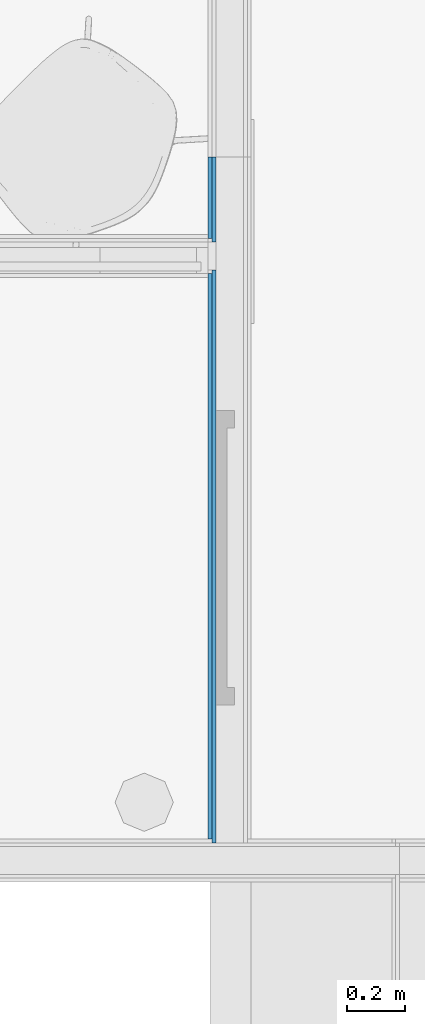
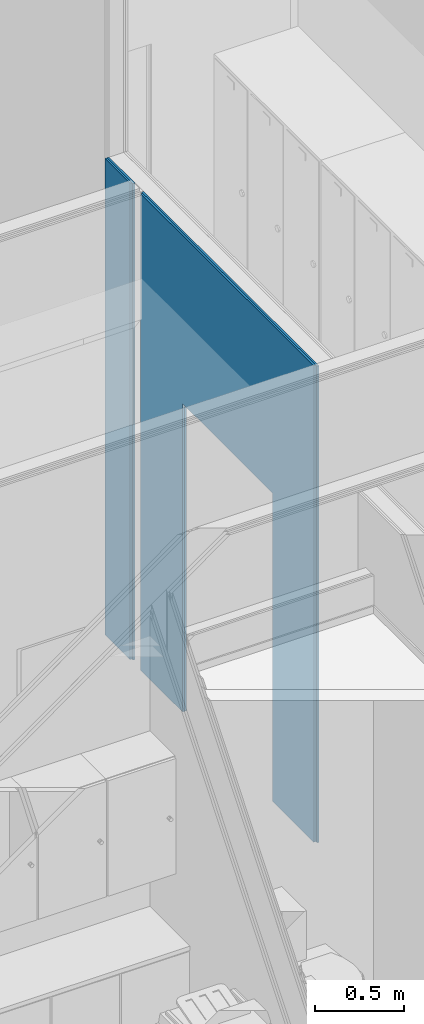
# One storey, part 85 of 153: 2 building element parts, 1 opening, 1 element without a shape of its own.
"""IFC2X3 building model written with IfcOpenShell, lengths in millimetres."""

import ifcopenshell
import ifcopenshell.guid

model = None  # the IFC model being written
_history = None  # IfcOwnerHistory: only IFC2X3 demands one
_inside = {}  # id of a spatial element -> (the spatial element, [elements in it])
_under = {}  # id of a project, library or spatial element -> (it, [spatial elements below it])
_declared = {}  # id of a project -> (the project, [libraries it declares])
_typed = {}  # id of a type object -> (the type object, [elements of that type])
_made_of = {}  # id of a material, layer set ... -> (it, [elements and type objects made of it])


def new_model(schema):
    """Start an empty IFC model of exactly this schema.

    Asked for "IFC4X3", IfcOpenShell would pick the latest addendum, in which some entities
    have other attributes; the version numbers below select the first issue.
    IFC2X3 requires an IfcOwnerHistory on every rooted entity: one is made here for all.
    """
    global model, _history
    if schema == "IFC4X3":
        model = ifcopenshell.file(schema_version=(4, 3, 0, 0))
    else:
        model = ifcopenshell.file(schema=schema)
    _inside.clear()
    _under.clear()
    _declared.clear()
    _typed.clear()
    _made_of.clear()
    _history = None
    if model.schema == "IFC2X3":
        org = make("IfcOrganization", Name="unknown")
        user = make(
            "IfcPersonAndOrganization",
            ThePerson=make("IfcPerson", FamilyName="unknown"),
            TheOrganization=org,
        )
        app = make(
            "IfcApplication",
            ApplicationDeveloper=org,
            Version="unknown",
            ApplicationFullName="unknown",
            ApplicationIdentifier="unknown",
        )
        _history = make(
            "IfcOwnerHistory",
            OwningUser=user,
            OwningApplication=app,
            ChangeAction="ADDED",
            CreationDate=0,
        )
    return model


def make(cls, **values):
    """One entity of the class cls with the attributes given. An attribute that is None is left unset."""
    return model.create_entity(
        cls, **{name: value for name, value in values.items() if value is not None}
    )


def entity(cls, *values):
    """Any entity or typed value of the class cls, its attributes in the order of the schema. None: left unset."""
    e = model.create_entity(cls)
    for i, value in enumerate(values):
        if value is not None:
            e[i] = value
    return e


def rooted(cls, **values):
    """An entity with a GlobalId (a new one), such as an element, a storey or a relation."""
    return make(cls, GlobalId=ifcopenshell.guid.new(), OwnerHistory=_history, **values)


def si_unit(unit_type, name, prefix=None):
    """IfcSIUnit, for example si_unit("LENGTHUNIT", "METRE", prefix="MILLI")."""
    return make("IfcSIUnit", UnitType=unit_type, Prefix=prefix, Name=name)


def converted_unit(unit_type, name, factor, base, dimensions=None, offset=None):
    """IfcConversionBasedUnit, such as the inch: factor (a typed value) times the base unit."""
    return make(
        "IfcConversionBasedUnit"
        if offset is None
        else "IfcConversionBasedUnitWithOffset",
        ConversionOffset=offset,
        Dimensions=None
        if dimensions is None
        else entity("IfcDimensionalExponents", *dimensions),
        UnitType=unit_type,
        Name=name,
        ConversionFactor=make(
            "IfcMeasureWithUnit", ValueComponent=factor, UnitComponent=base
        ),
    )


def derived_unit(unit_type, elements):
    """IfcDerivedUnit: a product of units, each with its exponent."""
    return make(
        "IfcDerivedUnit",
        Elements=[
            make("IfcDerivedUnitElement", Unit=unit, Exponent=power)
            for unit, power in elements
        ],
        UnitType=unit_type,
    )


def money_unit(currency):
    """IfcMonetaryUnit."""
    return make("IfcMonetaryUnit", Currency=currency)


def assignment(units):
    """IfcUnitAssignment: the units of a project."""
    return None if units is None else make("IfcUnitAssignment", Units=units)


def point(xyz):
    """IfcCartesianPoint."""
    return None if xyz is None else make("IfcCartesianPoint", Coordinates=xyz)


def direction(xyz):
    """IfcDirection."""
    return None if xyz is None else make("IfcDirection", DirectionRatios=xyz)


def frame(location, z_axis=None, x_axis=None):
    """IfcAxis2Placement3D, a coordinate frame: its origin and axes. An axis left out is left unset."""
    return make(
        "IfcAxis2Placement3D",
        Location=point(location),
        Axis=direction(z_axis),
        RefDirection=direction(x_axis),
    )


def origin_with_axes():
    """The frame at (0, 0, 0) with the z axis (0, 0, 1) and the x axis (1, 0, 0) written out."""
    return frame((0.0, 0.0, 0.0), z_axis=(0.0, 0.0, 1.0), x_axis=(1.0, 0.0, 0.0))


def place(relative_to, where):
    """IfcLocalPlacement: puts the frame where relative to a parent placement (None: the world)."""
    return make(
        "IfcLocalPlacement", PlacementRelTo=relative_to, RelativePlacement=where
    )


def context(
    kind, dimensions, precision=None, world=None, true_north=None, identifier=None
):
    """IfcGeometricRepresentationContext, for example the 3D "Model" context."""
    return make(
        "IfcGeometricRepresentationContext",
        ContextIdentifier=identifier,
        ContextType=kind,
        CoordinateSpaceDimension=dimensions,
        Precision=precision,
        WorldCoordinateSystem=world,
        TrueNorth=true_north,
    )


def subcontext(parent, identifier, kind, view, scale=None):
    """IfcGeometricRepresentationSubContext, for example "Body" below "Model"."""
    return make(
        "IfcGeometricRepresentationSubContext",
        ContextIdentifier=identifier,
        ContextType=kind,
        ParentContext=parent,
        TargetScale=scale,
        TargetView=view,
    )


def project(units=None, contexts=None):
    """IfcProject with its units and contexts."""
    return rooted(
        "IfcProject",
        Name="project",
        RepresentationContexts=contexts,
        UnitsInContext=assignment(units),
    )


def spatial(cls, under=None, at=None, **own):
    """A site, building, storey or space (cls), placed at a placement, below another one or the project."""
    s = rooted(cls, ObjectPlacement=at, **own)
    if under is not None:
        _under.setdefault(under.id(), (under, []))[1].append(s)
    return s


def faces_of(points, faces, orient=None, outer=None):
    """IfcFace entities. A face is a list of loops; a loop is a list of indices into points, from 0.

    orient and outer hold one flag for each loop. By default every Orientation is true, the
    first loop of a face is its IfcFaceOuterBound and the others are IfcFaceBound.
    """
    made = []
    for i, loops in enumerate(faces):
        bounds = []
        for j, loop in enumerate(loops):
            is_outer = j == 0 if outer is None else outer[i][j]
            bounds.append(
                make(
                    "IfcFaceOuterBound" if is_outer else "IfcFaceBound",
                    Bound=make("IfcPolyLoop", Polygon=[points[k] for k in loop]),
                    Orientation=True if orient is None else orient[i][j],
                )
            )
        made.append(make("IfcFace", Bounds=bounds))
    return made


def faceted_brep(points, faces, orient=None, outer=None, voids=None):
    """IfcFacetedBrep: a solid bounded by flat faces; with voids (closed shells), ...WithVoids."""
    shared = [point(p) for p in points]
    hull = make("IfcClosedShell", CfsFaces=faces_of(shared, faces, orient, outer))
    if voids is None:
        return make("IfcFacetedBrep", Outer=hull)
    return make(
        "IfcFacetedBrepWithVoids",
        Outer=hull,
        Voids=[
            make(cls, CfsFaces=faces_of(shared, fs, o, b)) for cls, fs, o, b in voids
        ],
    )


def shape(context_of_items, identifier, shape_type, items):
    """IfcShapeRepresentation: the items that make up one representation, for example the "Body"."""
    return make(
        "IfcShapeRepresentation",
        ContextOfItems=context_of_items,
        RepresentationIdentifier=identifier,
        RepresentationType=shape_type,
        Items=items,
    )


def material(Name=None, Category=None):
    """IfcMaterial."""
    return make("IfcMaterial", Name=Name, Category=Category)


def made_of(thing, what):
    """Note that an element or type object is made of a material, layer set ...; save() writes the relation."""
    if what is not None:
        _made_of.setdefault(what.id(), (what, []))[1].append(thing)
    return thing


def type_object(cls, material=None, **own):
    """A type object (cls), such as IfcWallType, which elements share."""
    return made_of(rooted(cls, **own), material)


def element(
    cls,
    number,
    at=None,
    inside=None,
    cuts=None,
    type_object=None,
    material=None,
    context=None,
    identifier="Body",
    shape_type=None,
    held_by="IfcProductDefinitionShape",
    body=None,
    shapes=None,
    **own,
):
    """One element of the class cls, such as IfcWall. Its Tag is "e" and its number.

    at: its placement. inside: the storey or other place that contains it. cuts: it is an
    opening in that element (IfcRelVoidsElement). A single representation is given by context,
    identifier, shape_type and body (its items); several are given by shapes. held_by: the class
    of the entity that holds the representations. save() writes the other relations.
    """
    e = rooted(cls, Tag="e%d" % number, ObjectPlacement=at, **own)
    if body is not None:
        shapes = [shape(context, identifier, shape_type, body)]
    if shapes is not None:
        e.Representation = make(held_by, Representations=shapes)
    if inside is not None:
        _inside.setdefault(inside.id(), (inside, []))[1].append(e)
    if cuts is not None:
        rooted(
            "IfcRelVoidsElement", RelatingBuildingElement=cuts, RelatedOpeningElement=e
        )
    if type_object is not None:
        _typed.setdefault(type_object.id(), (type_object, []))[1].append(e)
    return made_of(e, material)


def aggregate(whole, parts):
    """IfcRelAggregates: a whole, such as a stair, and the parts it consists of."""
    return rooted("IfcRelAggregates", RelatingObject=whole, RelatedObjects=parts)


def save(model, path):
    """Write the relations noted so far, then the file.

    IfcRelAggregates (storeys below a building ...), IfcRelContainedInSpatialStructure (elements
    in a storey), IfcRelDefinesByType, IfcRelAssociatesMaterial and IfcRelDeclares: one each for
    every whole, place, type object, material and project.
    """
    for whole, parts in _under.values():
        aggregate(whole, parts)
    for where, things in _inside.values():
        rooted(
            "IfcRelContainedInSpatialStructure",
            RelatedElements=things,
            RelatingStructure=where,
        )
    for kind, things in _typed.values():
        rooted("IfcRelDefinesByType", RelatedObjects=things, RelatingType=kind)
    for what, things in _made_of.values():
        rooted("IfcRelAssociatesMaterial", RelatedObjects=things, RelatingMaterial=what)
    for by, libraries in _declared.values():
        rooted("IfcRelDeclares", RelatingContext=by, RelatedDefinitions=libraries)
    model.write(path)


model = new_model("IFC2X3")

# Units and contexts
model_context = context("Model", 3, precision=0.01, world=origin_with_axes(), true_north=direction((0.0, 1.0)))
body_context = subcontext(model_context, "Body", "Model", "MODEL_VIEW")
ifc_project = project(units=[si_unit("LENGTHUNIT", "METRE", prefix="MILLI"), si_unit("AREAUNIT", "SQUARE_METRE"), si_unit("VOLUMEUNIT", "CUBIC_METRE"), converted_unit("PLANEANGLEUNIT", "DEGREE", entity("IfcPlaneAngleMeasure", 0.0174532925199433), si_unit("PLANEANGLEUNIT", "RADIAN"), dimensions=[0, 0, 0, 0, 0, 0, 0]), money_unit("EUR"), converted_unit("TIMEUNIT", "Year", entity("IfcTimeMeasure", 31557600.0), si_unit("TIMEUNIT", "SECOND"), dimensions=[0, 0, 1, 0, 0, 0, 0]), si_unit("MASSUNIT", "GRAM", prefix="KILO"), si_unit("THERMODYNAMICTEMPERATUREUNIT", "DEGREE_CELSIUS"), si_unit("LUMINOUSINTENSITYUNIT", "LUMEN"), si_unit("ENERGYUNIT", "JOULE", prefix="MEGA"), derived_unit("THERMALCONDUCTANCEUNIT", [(si_unit("POWERUNIT", "WATT"), 1), (si_unit("LENGTHUNIT", "METRE"), -1), (si_unit("THERMODYNAMICTEMPERATUREUNIT", "KELVIN"), -1)]), derived_unit("SPECIFICHEATCAPACITYUNIT", [(si_unit("ENERGYUNIT", "JOULE"), 1), (si_unit("MASSUNIT", "GRAM", prefix="KILO"), -1), (si_unit("THERMODYNAMICTEMPERATUREUNIT", "KELVIN"), -1)]), derived_unit("MASSDENSITYUNIT", [(si_unit("MASSUNIT", "GRAM", prefix="KILO"), 1), (si_unit("VOLUMEUNIT", "CUBIC_METRE"), -1)])], contexts=[model_context])

# Site, building, storey
site_placement = place(None, frame((0.0, 0.0, 8650.0), z_axis=(0.0, 0.0, 1.0), x_axis=(1.0, 0.0, 0.0)))
site = spatial("IfcSite", under=ifc_project, at=site_placement, Name="43301:001:0844", CompositionType="ELEMENT")
building_placement = place(site_placement, origin_with_axes())
building = spatial("IfcBuilding", under=site, at=building_placement, Name="Kuressaare Ametikooli tuulikute mehaanikute õppekorpus", CompositionType="ELEMENT")
storey_placement = place(building_placement, frame((0.0, 0.0, 4100.0), z_axis=(0.0, 0.0, 1.0), x_axis=(1.0, 0.0, 0.0)))
storey = spatial("IfcBuildingStorey", under=building, at=storey_placement, Name="2.korrus", CompositionType="ELEMENT", Elevation=4100.0)

# Wall, opening, building element parts
wall_type = type_object("IfcWallType", Name="SS-2.2 147", PredefinedType="NOTDEFINED")
wall_placement = place(storey_placement, frame((130468.0683571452, 21634.06892395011, 0.0), z_axis=(0.0, 0.0, 1.0), x_axis=(0.0, 1.0, 0.0)))
wall = element("IfcWall", 1, at=wall_placement, inside=storey, type_object=wall_type, Name="Sisesein")
opening_placement = place(wall_placement, frame((964.9999999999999, 0.0, 0.0), z_axis=(0.0, 0.0, 1.0), x_axis=(1.0, 0.0, 0.0)))
element("IfcOpeningElement", 2, at=opening_placement, cuts=wall, Name="PU10,dB", context=body_context, shape_type="Brep", body=[
    faceted_brep([(-504.999999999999, -147.9999999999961, 2110.0), (-504.999999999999, -147.9999999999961, 0.0), (504.999999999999, -147.9999999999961, 0.0), (504.999999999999, -147.9999999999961, 2110.0), (-504.999999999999, 1.000000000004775, 2110.0), (-504.999999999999, 1.000000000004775, 0.0), (504.999999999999, 1.000000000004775, 0.0), (504.999999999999, 1.000000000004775, 2110.0)], [[[0, 1, 2, 3]], [[4, 5, 1, 0]], [[5, 6, 2, 1]], [[6, 7, 3, 2]], [[7, 4, 0, 3]], [[6, 5, 4, 7]]]),
])
ifc_material = material(Name="Kipsplaat")
building_element_part_1_placement = place(wall_placement, origin_with_axes())
building_element_part_1 = element("IfcBuildingElementPart", 3, at=building_element_part_1_placement, material=ifc_material, Name="Kipsplaat", context=body_context, shape_type="Brep", body=[
    faceted_brep([(2339.999777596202, 0.0, 0.0), (2339.999777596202, -13.00000000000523, 0.0), (2060.999999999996, -13.00000000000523, 0.0), (2060.999999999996, 0.0, 0.0), (2339.999777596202, 0.0, 3260.712739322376), (2339.999777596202, -13.00000000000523, 3260.712739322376), (2060.999999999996, -13.00000000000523, 3260.712739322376), (2060.999999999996, 0.0, 3260.712739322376)], [[[0, 1, 2, 3]], [[0, 4, 5, 1]], [[1, 5, 6, 2]], [[3, 2, 6, 7]], [[4, 0, 3, 7]], [[5, 4, 7, 6]]]),
    faceted_brep([(460.0000000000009, -13.00000000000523, 0.0), (460.0000000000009, -13.00000000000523, 2110.0), (1469.999999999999, -13.00000000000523, 2110.0), (1469.999999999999, -13.00000000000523, 0.0), (1939.999999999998, -13.00000000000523, 0.0), (1939.999999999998, -13.00000000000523, 3260.712739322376), (0.0, -13.00000000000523, 3260.712739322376), (0.0, -13.00000000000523, 0.0), (460.0000000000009, 0.0, 0.0), (460.0000000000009, 0.0, 2110.0), (1469.999999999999, 0.0, 2110.0), (1469.999999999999, 0.0, 0.0), (1939.999999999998, 0.0, 0.0), (1939.999999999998, 0.0, 3260.712739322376), (0.0, 0.0, 3260.712739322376), (0.0, 0.0, 0.0)], [[[0, 1, 2, 3, 4, 5, 6, 7]], [[1, 0, 8, 9]], [[2, 1, 9, 10]], [[3, 2, 10, 11]], [[3, 11, 12, 4]], [[13, 5, 4, 12]], [[14, 6, 5, 13]], [[7, 6, 14, 15]], [[8, 0, 7, 15]], [[9, 8, 15, 14, 13, 12, 11, 10]]]),
])
building_element_part_2_placement = place(wall_placement, origin_with_axes())
building_element_part_2 = element("IfcBuildingElementPart", 4, at=building_element_part_2_placement, material=ifc_material, Name="Kipsplaat", context=body_context, shape_type="Brep", body=[
    faceted_brep([(2339.999777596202, -13.00000000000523, 0.0), (2339.999777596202, -26.00000000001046, 0.0), (2047.999999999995, -26.00000000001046, 0.0), (2047.999999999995, -13.00000000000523, 0.0), (2339.999777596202, -13.00000000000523, 3260.712739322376), (2339.999777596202, -26.00000000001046, 3260.712739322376), (2047.999999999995, -26.00000000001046, 3260.712739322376), (2047.999999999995, -13.00000000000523, 3260.712739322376)], [[[0, 1, 2, 3]], [[0, 4, 5, 1]], [[1, 5, 6, 2]], [[3, 2, 6, 7]], [[4, 0, 3, 7]], [[5, 4, 7, 6]]]),
    faceted_brep([(460.0000000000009, -26.00000000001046, 0.0), (460.0000000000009, -26.00000000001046, 2110.0), (1469.999999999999, -26.00000000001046, 2110.0), (1469.999999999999, -26.00000000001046, 0.0), (1952.999999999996, -26.00000000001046, 0.0), (1952.999999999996, -26.00000000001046, 3260.712739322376), (-13.00000000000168, -26.00000000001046, 3260.712739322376), (-13.00000000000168, -26.00000000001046, 0.0), (460.0000000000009, -13.00000000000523, 0.0), (460.0000000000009, -13.00000000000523, 2110.0), (1469.999999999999, -13.00000000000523, 2110.0), (1469.999999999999, -13.00000000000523, 0.0), (1952.999999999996, -13.00000000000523, 0.0), (1952.999999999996, -13.00000000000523, 3260.712739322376), (-13.00000000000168, -13.00000000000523, 3260.712739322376), (-13.00000000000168, -13.00000000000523, 0.0)], [[[0, 1, 2, 3, 4, 5, 6, 7]], [[1, 0, 8, 9]], [[2, 1, 9, 10]], [[3, 2, 10, 11]], [[3, 11, 12, 4]], [[13, 5, 4, 12]], [[14, 6, 5, 13]], [[7, 6, 14, 15]], [[8, 0, 7, 15]], [[9, 8, 15, 14, 13, 12, 11, 10]]]),
])
aggregate(wall, [building_element_part_1, building_element_part_2])

save(model, "model.ifc")
